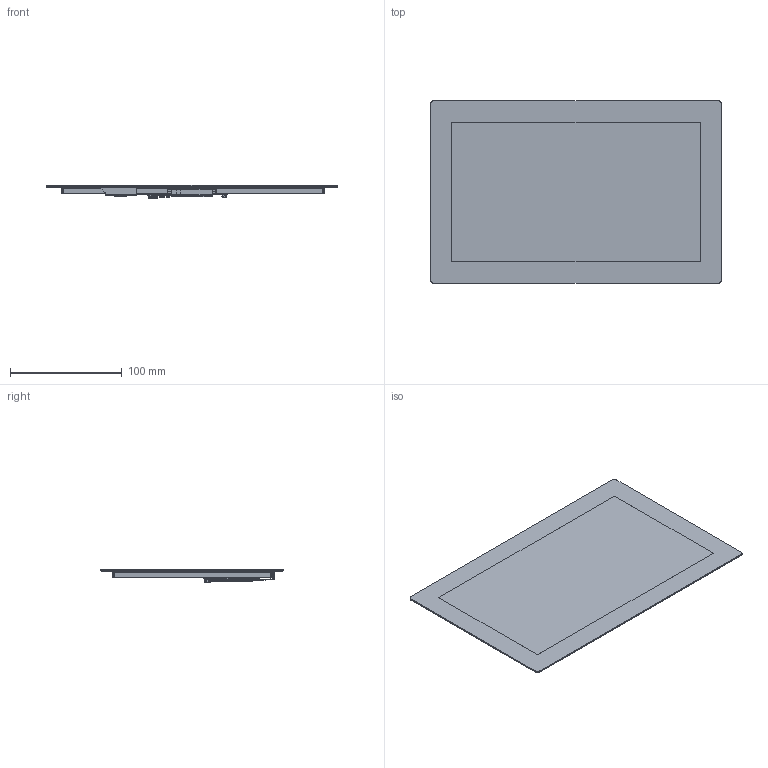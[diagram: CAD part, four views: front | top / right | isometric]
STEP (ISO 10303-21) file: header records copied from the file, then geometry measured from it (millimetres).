
FILE_DESCRIPTION(('STEP AP214'),'1');
FILE_NAME('LCD.10.LVDS.1.stp','2025-12-17T14:00:25',(' '),(' '),'Spatial InterOp 3D',' ',' ');
FILE_SCHEMA(('AUTOMOTIVE_DESIGN { 1 0 10303 214 1 1 1 1 }'));
Length unit declared in the file: metre
Products named in the file (170): EE1010B1T-1CP 20230821_mounted_edited; Component1; Component2; LCD.10.LVDS.1; 68710814522; 6871xx14522_PIN; 6871xx14522_Patte; 6871xx14522_Patte_2; 68710814522_CAP; 68710814522-0; FS_J_0P5_08POS_WR-FPC_HOR; COMPONENTS; fs_r_tc33x2; TC33X_SUBSTRATE; TC33X_ELEMENT; TC33X-1_COLLECTOR; TC33X_CONTACT; TC33X_TERMINALS; TC33X_SOLDER; FS_R_TC33X; FS_R1206; _3f__3f__3f__3f__3f__3f__3f__3f_6; fs_mlf8_0p5_2x22; Component12; Component22; Component3; Component4; Component5; Component6; Component7; Component8; Component9; Component10; FS_MLF8_0P5_2X2; fs_tssop20_0p65_6p6x6p62; Component1-1; Component2-2; Component3-3; Component4-4; Component5-5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
Assembly tree (236 placements, depth 6):
  LCD.10.LVDS.1
    EE1010B1T-1CP 20230821_mounted_edited
      Component1
      Component2
    ADP-LVDS2LVDS2_REV100
      COMPONENTS
        FS_J_0P5_08POS_WR-FPC_HOR
          68710814522
            6871xx14522_PIN  x8
            6871xx14522_Patte
            6871xx14522_Patte_2
            68710814522_CAP
            68710814522-0
        FS_R_TC33X
          fs_r_tc33x2
            TC33X_SUBSTRATE
            TC33X_ELEMENT
            TC33X-1_COLLECTOR
            TC33X_CONTACT
            TC33X_TERMINALS
            TC33X_SOLDER
        FS_R1206
          _3f__3f__3f__3f__3f__3f__3f__3f_6
        FS_MLF8_0P5_2X2
          fs_mlf8_0p5_2x22
            Component12
            Component22
            Component3
            Component4
            Component5
            Component6
            Component7
            Component8
            Component9
            Component10
        FS_TSSOP20_0P65_6P6X6P6
          fs_tssop20_0p65_6p6x6p62
            Component1-1
            Component2-2
            Component3-3
            Component4-4
            Component5-5
            Component6-6
            Component7-7
            Component8-8
            Component9-9
            Component10-10
            Component11
            Component122
            Component13
            Component14
            Component15
            Component16
            Component17
            Component18
            Component19
            Component20
            Component21
            Component222
        FS_SOT23-3
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Bounding box: 260.82 x 163.38 x 11.95 mm (x, y, z)
Volume: 228509.4 mm3; surface area: 246424.3 mm2
Topology: 159 solids, 162 shells, 8643 faces, 23362 edges, 14952 vertices
Faces by surface type: plane 6787, cylinder 1404, sphere 187, extrusion 87, cone 84, bspline 63, torus 31
Full cylindrical faces by diameter (mm): 0.12 x1, 0.203 x2, 0.22 x1, 0.25 x1, 0.356 x2, 0.457 x1, 0.5 x3, 0.6 x2, 0.66 x3, 0.8 x2, 1.5 x4, 5 x8
Entity records: 339239 total; most frequent: CARTESIAN_POINT 41137, ORIENTED_EDGE 34469, DIRECTION 31417, PRESENTATION_STYLE_ASSIGNMENT 23127, COLOUR_RGB 23127, STYLED_ITEM 22773, EDGE_CURVE 17236, CURVE_STYLE 16792
